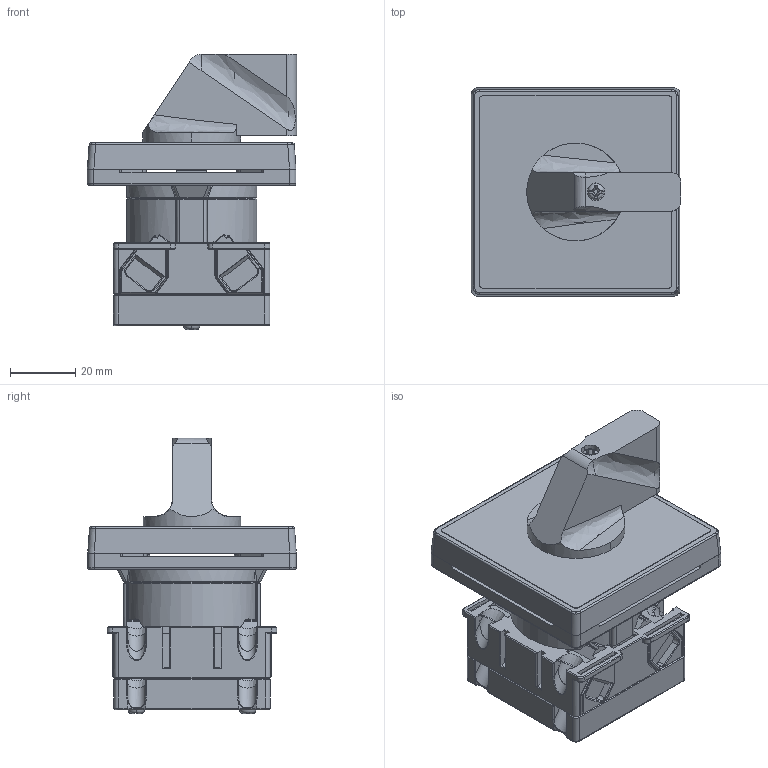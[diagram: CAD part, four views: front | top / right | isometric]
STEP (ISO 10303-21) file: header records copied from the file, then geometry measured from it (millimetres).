
FILE_DESCRIPTION (( 'STEP AP214' ), '1' );
FILE_NAME ('Ïåðåêëþ÷àòåëü 4G16,25-XXXX-U-R112,R114,S24 1ê.STEP', '2022-11-28T08:32:55', ( '' ), ( '' ), 'SwSTEP 2.0', 'SolidWorks 2018', '' );
FILE_SCHEMA (( 'AUTOMOTIVE_DESIGN' ));
Length unit declared in the file: millimetre
Products named in the file (1): Ïåðåêëþ÷àòåëü 4G16,25-XXXX-U-R112,R114,S24 1ê
Bounding box: 64.21 x 64 x 84.5 mm (x, y, z)
Volume: 109840.6 mm3; surface area: 69131.4 mm2
Topology: 15 solids, 23 shells, 2744 faces, 7259 edges, 4580 vertices
Faces by surface type: plane 1425, cylinder 957, torus 140, cone 83, bspline 79, sphere 60
Entity records: 142408 total; most frequent: CARTESIAN_POINT 45535, ORIENTED_EDGE 14400, DIRECTION 13430, EDGE_CURVE 7200, VERTEX_POINT 4568, LINE 4518, VECTOR 4518, AXIS2_PLACEMENT_3D 4456
